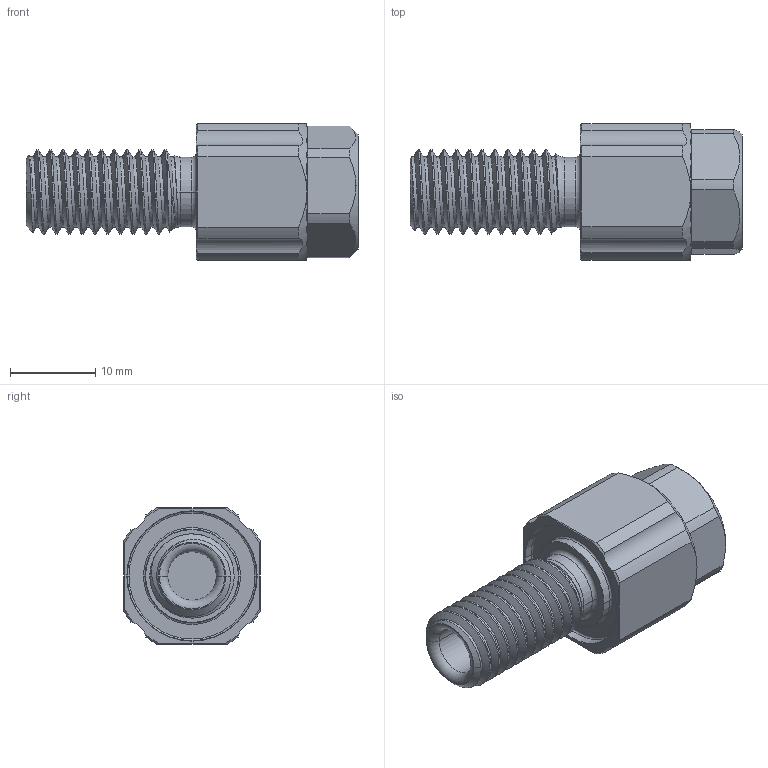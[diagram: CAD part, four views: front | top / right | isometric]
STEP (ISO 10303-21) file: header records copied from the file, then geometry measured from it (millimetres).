
FILE_DESCRIPTION (( 'STEP AP214' ), '1' );
FILE_NAME ('BR-107163-055_RevA.STEP', '2026-05-05T23:55:55', ( '' ), ( '' ), 'SwSTEP 2.0', 'SolidWorks 2024', '' );
FILE_SCHEMA (( 'AUTOMOTIVE_DESIGN' ));
Length unit declared in the file: millimetre
Products named in the file (3): WLP-PLUG_WLP-PLUG-5.5MM-LC-PUBLIC; WLP-BULKHEAD-JPT_WLP-M10-BULKHEAD-5.5MM-PUBLIC; BR-107163-055_RevA
Assembly tree (2 placements, depth 2):
  BR-107163-055_RevA
    WLP-BULKHEAD-JPT_WLP-M10-BULKHEAD-5.5MM-PUBLIC
    WLP-PLUG_WLP-PLUG-5.5MM-LC-PUBLIC
Bounding box: 39 x 16 x 16 mm (x, y, z)
Volume: 4479.6 mm3; surface area: 3048.1 mm2
Topology: 2 solids, 2 shells, 122 faces, 309 edges, 195 vertices
Faces by surface type: cylinder 50, cone 28, plane 28, torus 13, bspline 3
Entity records: 6415 total; most frequent: CARTESIAN_POINT 3586, ORIENTED_EDGE 618, DIRECTION 548, EDGE_CURVE 309, AXIS2_PLACEMENT_3D 230, VERTEX_POINT 195, EDGE_LOOP 128, FACE_OUTER_BOUND 122
